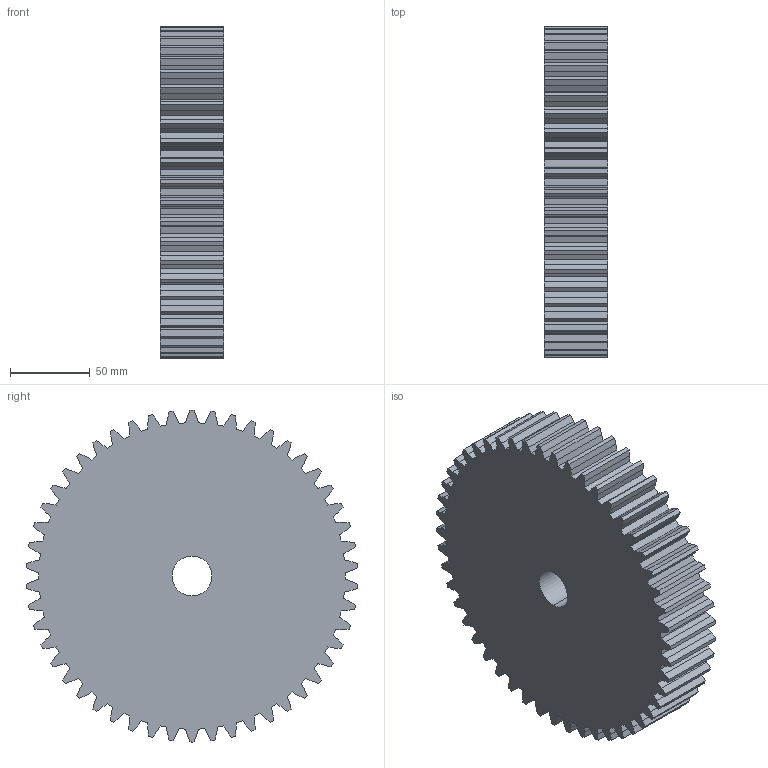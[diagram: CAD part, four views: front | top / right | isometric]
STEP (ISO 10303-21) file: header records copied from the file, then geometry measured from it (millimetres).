
FILE_DESCRIPTION (( 'STEP AP203' ), '1' );
FILE_NAME ('CM 31050.STEP', '2013-09-23T10:08:06', ( '' ), ( '' ), 'SwSTEP 2.0', 'SolidWorks 2010', '' );
FILE_SCHEMA (( 'CONFIG_CONTROL_DESIGN' ));
Length unit declared in the file: millimetre
Products named in the file (1): CM 31050
Bounding box: 40 x 207.74 x 208 mm (x, y, z)
Volume: 1226580.6 mm3; surface area: 111910.4 mm2
Topology: 1 solids, 1 shells, 304 faces, 906 edges, 604 vertices
Faces by surface type: plane 202, cylinder 102
Entity records: 10675 total; most frequent: CARTESIAN_POINT 3531, ORIENTED_EDGE 1812, DIRECTION 976, EDGE_CURVE 906, VERTEX_POINT 604, B_SPLINE_CURVE_WITH_KNOTS 572, AXIS2_PLACEMENT_3D 337, EDGE_LOOP 306
